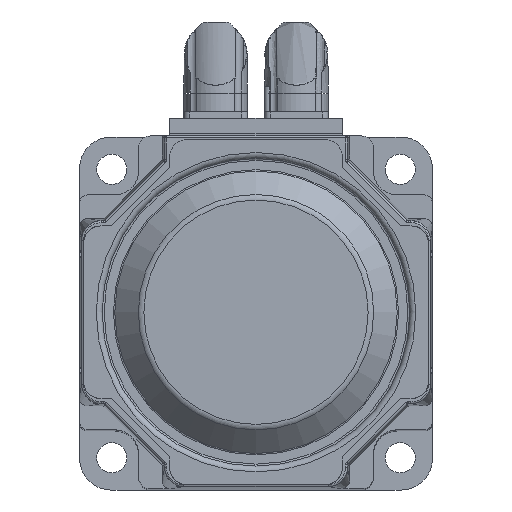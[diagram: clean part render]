
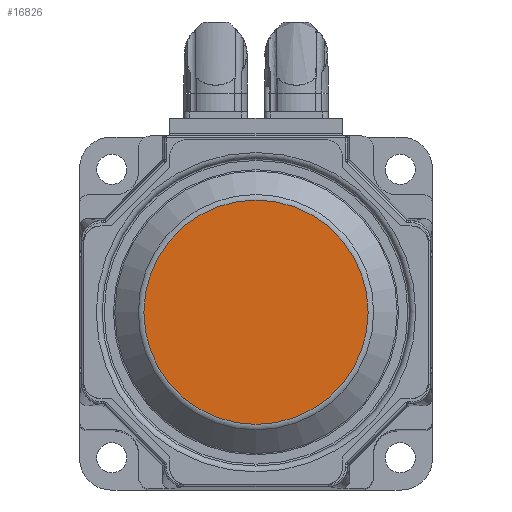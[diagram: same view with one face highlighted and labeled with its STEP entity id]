
A CAD part, top view. The second image highlights one B-rep face of the part: STEP entity #16826.
In plain terms, the highlighted planar face has unit normal (0, 0, 1).
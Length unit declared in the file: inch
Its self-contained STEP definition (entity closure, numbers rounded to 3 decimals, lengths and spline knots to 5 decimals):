
#16806=CARTESIAN_POINT('',(0.0,1.78622,1.69));
#16807=VERTEX_POINT('',#16806);
#16808=CARTESIAN_POINT('',(0.0,0.0,1.69));
#16809=DIRECTION('',(0.0,0.0,-1.0));
#16810=DIRECTION('',(0.0,1.0,0.0));
#16811=AXIS2_PLACEMENT_3D('',#16808,#16809,#16810);
#16812=CIRCLE('',#16811,1.78622);
#16813=EDGE_CURVE('',#16807,#16807,#16812,.T.);
#16818=CARTESIAN_POINT('',(0.0,0.89311,1.69));
#16819=DIRECTION('',(0.0,0.0,1.0));
#16820=DIRECTION('',(1.0,0.0,0.0));
#16821=AXIS2_PLACEMENT_3D('',#16818,#16819,#16820);
#16822=PLANE('',#16821);
#16823=ORIENTED_EDGE('',*,*,#16813,.F.);
#16824=EDGE_LOOP('',(#16823));
#16825=FACE_OUTER_BOUND('',#16824,.T.);
#16826=ADVANCED_FACE('',(#16825),#16822,.T.);
